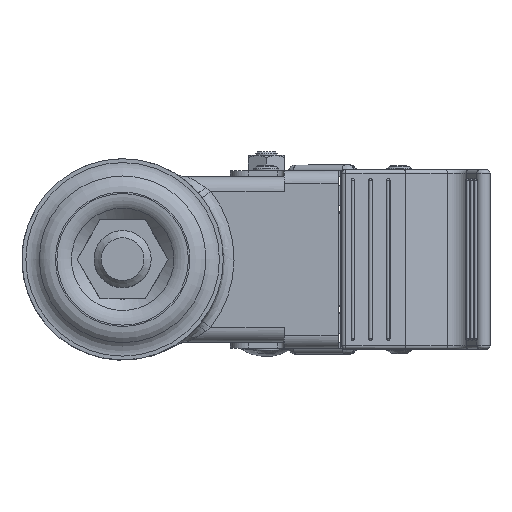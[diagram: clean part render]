
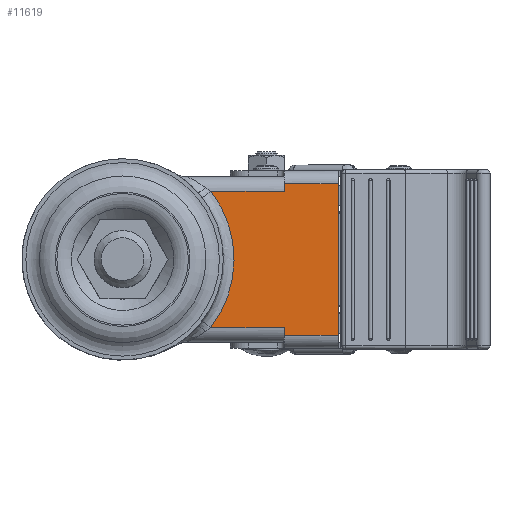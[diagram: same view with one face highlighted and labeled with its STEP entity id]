
A CAD part, top view. The second image highlights one B-rep face of the part: STEP entity #11619.
In plain terms, the highlighted planar face has unit normal (0, 0, 1).
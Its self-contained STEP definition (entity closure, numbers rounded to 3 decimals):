
#183=B_SPLINE_CURVE_WITH_KNOTS('',3,(#19482,#19483,#19484,#19485,#19486,
#19487,#19488,#19489,#19490,#19491,#19492,#19493,#19494,#19495,#19496,#19497,
#19498,#19499,#19500,#19501,#19502,#19503,#19504,#19505,#19506,#19507,#19508,
#19509,#19510,#19511),.UNSPECIFIED.,.F.,.F.,(4,2,2,2,2,2,2,2,2,2,2,2,2,
2,4),(55.436,58.509,61.653,64.794,
67.938,71.08,74.223,77.366,80.508,
83.651,86.793,89.937,93.079,96.222,
96.31),.UNSPECIFIED.);
#282=LINE('',#17669,#1074);
#349=LINE('',#19517,#1141);
#364=LINE('',#19622,#1156);
#365=LINE('',#19625,#1157);
#403=LINE('',#20601,#1195);
#463=LINE('',#20886,#1255);
#481=LINE('',#21023,#1273);
#1074=VECTOR('',#13878,20.509);
#1141=VECTOR('',#14209,20.509);
#1156=VECTOR('',#14280,2.1);
#1157=VECTOR('',#14283,2.1);
#1195=VECTOR('',#14565,15.);
#1255=VECTOR('',#14817,15.);
#1273=VECTOR('',#14861,42.2);
#2725=FACE_OUTER_BOUND('',#3566,.T.);
#3566=EDGE_LOOP('',(#8917,#8918,#8919,#8920,#8921,#8922,#8923,#8924));
#4899=VERTEX_POINT('',#17666);
#4900=VERTEX_POINT('',#17668);
#5028=VERTEX_POINT('',#19342);
#5030=VERTEX_POINT('',#19516);
#5038=VERTEX_POINT('',#19620);
#5039=VERTEX_POINT('',#19624);
#5132=VERTEX_POINT('',#20581);
#5204=VERTEX_POINT('',#20884);
#6063=EDGE_CURVE('',#4899,#4900,#282,.T.);
#6243=EDGE_CURVE('',#4900,#5028,#183,.T.);
#6245=EDGE_CURVE('',#5028,#5030,#349,.T.);
#6267=EDGE_CURVE('',#4899,#5038,#364,.T.);
#6268=EDGE_CURVE('',#5039,#5030,#365,.T.);
#6397=EDGE_CURVE('',#5132,#5039,#403,.T.);
#6513=EDGE_CURVE('',#5204,#5038,#463,.T.);
#6543=EDGE_CURVE('',#5132,#5204,#481,.T.);
#8917=ORIENTED_EDGE('',*,*,#6513,.F.);
#8918=ORIENTED_EDGE('',*,*,#6543,.F.);
#8919=ORIENTED_EDGE('',*,*,#6397,.T.);
#8920=ORIENTED_EDGE('',*,*,#6268,.T.);
#8921=ORIENTED_EDGE('',*,*,#6245,.F.);
#8922=ORIENTED_EDGE('',*,*,#6243,.F.);
#8923=ORIENTED_EDGE('',*,*,#6063,.F.);
#8924=ORIENTED_EDGE('',*,*,#6267,.T.);
#11182=PLANE('',#12629);
#11619=ADVANCED_FACE('',(#2725),#11182,.T.);
#12629=AXIS2_PLACEMENT_3D('',#21075,#14939,#14940);
#13878=DIRECTION('',(-1.,0.,0.));
#14209=DIRECTION('',(1.,0.,0.));
#14280=DIRECTION('',(0.,-1.,0.));
#14283=DIRECTION('',(0.,-1.,0.));
#14565=DIRECTION('',(-1.,0.,0.));
#14817=DIRECTION('',(-1.,0.,0.));
#14861=DIRECTION('',(0.,-1.,0.));
#14939=DIRECTION('center_axis',(0.,0.,1.));
#14940=DIRECTION('ref_axis',(1.,0.,0.));
#17666=CARTESIAN_POINT('',(36.5,-19.,40.6));
#17668=CARTESIAN_POINT('',(15.991,-19.,40.6));
#17669=CARTESIAN_POINT('',(36.5,-19.,40.6));
#19342=CARTESIAN_POINT('',(15.991,19.,40.6));
#19482=CARTESIAN_POINT('Ctrl Pts',(15.991,-19.,40.6));
#19483=CARTESIAN_POINT('Ctrl Pts',(16.624,-18.185,40.6));
#19484=CARTESIAN_POINT('Ctrl Pts',(17.209,-17.347,40.6));
#19485=CARTESIAN_POINT('Ctrl Pts',(18.311,-15.592,40.6));
#19486=CARTESIAN_POINT('Ctrl Pts',(18.824,-14.673,40.6));
#19487=CARTESIAN_POINT('Ctrl Pts',(19.753,-12.793,40.6));
#19488=CARTESIAN_POINT('Ctrl Pts',(20.17,-11.831,40.6));
#19489=CARTESIAN_POINT('Ctrl Pts',(20.903,-9.868,40.6));
#19490=CARTESIAN_POINT('Ctrl Pts',(21.22,-8.867,40.6));
#19491=CARTESIAN_POINT('Ctrl Pts',(21.752,-6.839,40.6));
#19492=CARTESIAN_POINT('Ctrl Pts',(21.966,-5.811,40.6));
#19493=CARTESIAN_POINT('Ctrl Pts',(22.288,-3.74,40.6));
#19494=CARTESIAN_POINT('Ctrl Pts',(22.397,-2.697,40.6));
#19495=CARTESIAN_POINT('Ctrl Pts',(22.509,-0.603,
40.6));
#19496=CARTESIAN_POINT('Ctrl Pts',(22.512,0.446,40.6));
#19497=CARTESIAN_POINT('Ctrl Pts',(22.411,2.54,40.6));
#19498=CARTESIAN_POINT('Ctrl Pts',(22.307,3.584,40.6));
#19499=CARTESIAN_POINT('Ctrl Pts',(21.995,5.657,40.6));
#19500=CARTESIAN_POINT('Ctrl Pts',(21.786,6.686,40.6));
#19501=CARTESIAN_POINT('Ctrl Pts',(21.265,8.717,40.6));
#19502=CARTESIAN_POINT('Ctrl Pts',(20.953,9.719,40.6));
#19503=CARTESIAN_POINT('Ctrl Pts',(20.229,11.686,40.6));
#19504=CARTESIAN_POINT('Ctrl Pts',(19.818,12.65,40.6));
#19505=CARTESIAN_POINT('Ctrl Pts',(18.898,14.535,40.6));
#19506=CARTESIAN_POINT('Ctrl Pts',(18.39,15.455,40.6));
#19507=CARTESIAN_POINT('Ctrl Pts',(17.284,17.236,40.6));
#19508=CARTESIAN_POINT('Ctrl Pts',(16.689,18.095,40.6));
#19509=CARTESIAN_POINT('Ctrl Pts',(16.028,18.953,40.6));
#19510=CARTESIAN_POINT('Ctrl Pts',(16.009,18.977,40.6));
#19511=CARTESIAN_POINT('Ctrl Pts',(15.991,19.,40.6));
#19516=CARTESIAN_POINT('',(36.5,19.,40.6));
#19517=CARTESIAN_POINT('',(15.991,19.,40.6));
#19620=CARTESIAN_POINT('',(36.5,-21.1,40.6));
#19622=CARTESIAN_POINT('',(36.5,-19.,40.6));
#19624=CARTESIAN_POINT('',(36.5,21.1,40.6));
#19625=CARTESIAN_POINT('',(36.5,21.1,40.6));
#20581=CARTESIAN_POINT('',(51.5,21.1,40.6));
#20601=CARTESIAN_POINT('',(51.5,21.1,40.6));
#20884=CARTESIAN_POINT('',(51.5,-21.1,40.6));
#20886=CARTESIAN_POINT('',(51.5,-21.1,40.6));
#21023=CARTESIAN_POINT('',(51.5,21.1,40.6));
#21075=CARTESIAN_POINT('Origin',(36.5,0.,40.6));
